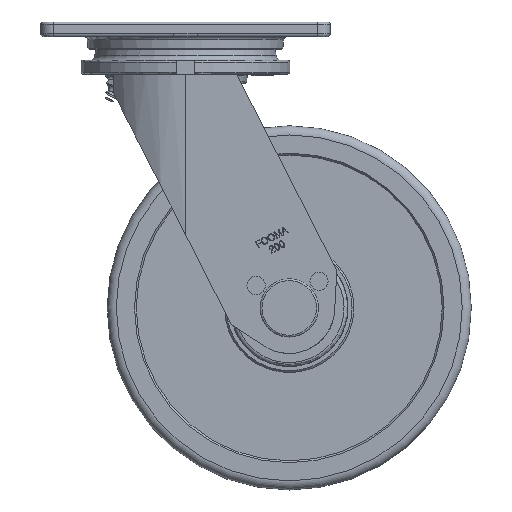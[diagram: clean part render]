
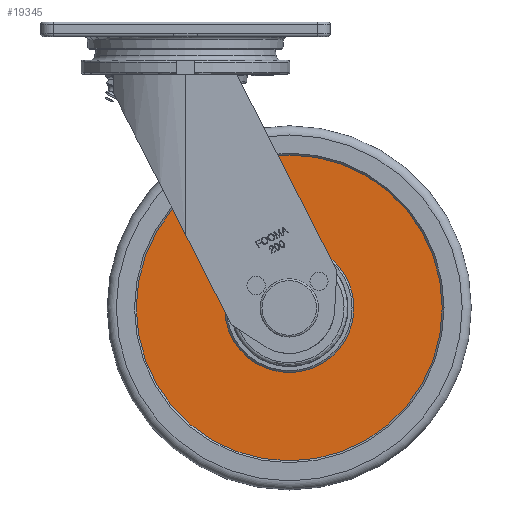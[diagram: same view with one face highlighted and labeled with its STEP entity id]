
A CAD part, front view. The second image highlights one B-rep face of the part: STEP entity #19345.
In plain terms, the highlighted planar face has unit normal (0, -1, 0).
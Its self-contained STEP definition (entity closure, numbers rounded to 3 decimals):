
#169=FACE_BOUND('',#6408,.T.);
#311=PLANE('',#20669);
#5243=FACE_OUTER_BOUND('',#6407,.T.);
#6407=EDGE_LOOP('',(#13700,#13701));
#6408=EDGE_LOOP('',(#13702,#13703));
#7690=CIRCLE('',#20667,35.493);
#7691=CIRCLE('',#20668,35.493);
#7692=CIRCLE('',#20670,83.993);
#7693=CIRCLE('',#20671,83.993);
#8421=VERTEX_POINT('',#26900);
#8422=VERTEX_POINT('',#26901);
#8423=VERTEX_POINT('',#26906);
#8424=VERTEX_POINT('',#26907);
#10480=EDGE_CURVE('',#8421,#8422,#7690,.T.);
#10481=EDGE_CURVE('',#8422,#8421,#7691,.T.);
#10483=EDGE_CURVE('',#8423,#8424,#7692,.T.);
#10484=EDGE_CURVE('',#8424,#8423,#7693,.T.);
#13700=ORIENTED_EDGE('',*,*,#10483,.F.);
#13701=ORIENTED_EDGE('',*,*,#10484,.F.);
#13702=ORIENTED_EDGE('',*,*,#10480,.T.);
#13703=ORIENTED_EDGE('',*,*,#10481,.T.);
#19345=ADVANCED_FACE('',(#5243,#169),#311,.T.);
#20667=AXIS2_PLACEMENT_3D('',#26902,#22474,#22475);
#20668=AXIS2_PLACEMENT_3D('',#26903,#22476,#22477);
#20669=AXIS2_PLACEMENT_3D('',#26905,#22479,#22480);
#20670=AXIS2_PLACEMENT_3D('',#26908,#22481,#22482);
#20671=AXIS2_PLACEMENT_3D('',#26909,#22483,#22484);
#22474=DIRECTION('center_axis',(0.,1.,0.));
#22475=DIRECTION('ref_axis',(1.,0.,0.));
#22476=DIRECTION('center_axis',(0.,1.,0.));
#22477=DIRECTION('ref_axis',(1.,0.,0.));
#22479=DIRECTION('center_axis',(0.,-1.,0.));
#22480=DIRECTION('ref_axis',(0.,0.,-1.));
#22481=DIRECTION('center_axis',(0.,1.,0.));
#22482=DIRECTION('ref_axis',(1.,0.,0.));
#22483=DIRECTION('center_axis',(0.,1.,0.));
#22484=DIRECTION('ref_axis',(1.,0.,0.));
#26900=CARTESIAN_POINT('',(57.,-31.,-91.507));
#26901=CARTESIAN_POINT('',(57.,-31.,-162.493));
#26902=CARTESIAN_POINT('Origin',(57.,-31.,-127.));
#26903=CARTESIAN_POINT('Origin',(57.,-31.,-127.));
#26905=CARTESIAN_POINT('Origin',(57.,-31.,-43.007));
#26906=CARTESIAN_POINT('',(57.,-31.,-43.007));
#26907=CARTESIAN_POINT('',(57.,-31.,-210.993));
#26908=CARTESIAN_POINT('Origin',(57.,-31.,-127.));
#26909=CARTESIAN_POINT('Origin',(57.,-31.,-127.));
